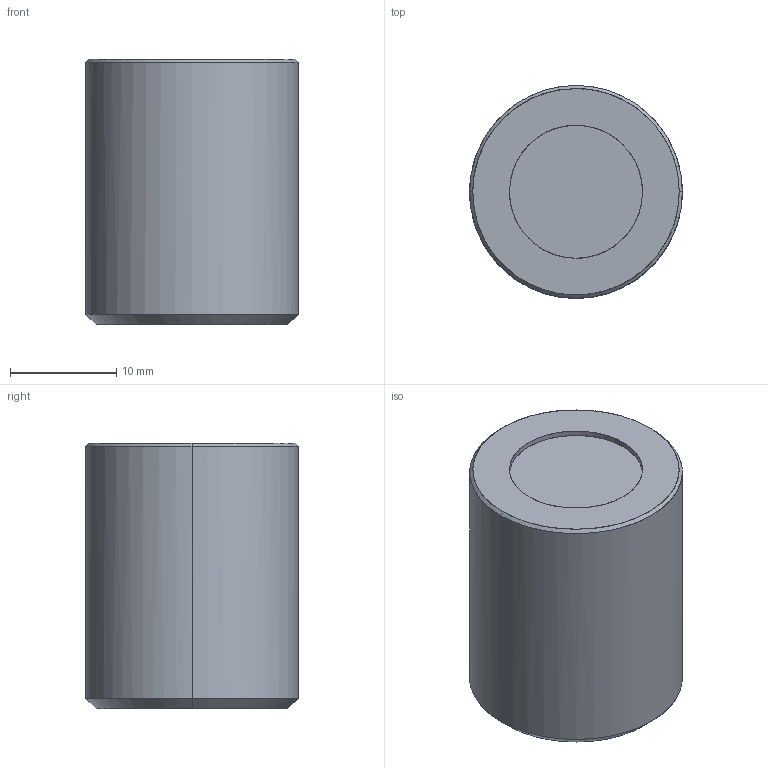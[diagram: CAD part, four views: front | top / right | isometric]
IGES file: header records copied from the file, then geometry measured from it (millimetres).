
Global section: file name: E:\UnigraphicsGraphicData\MISUMI_PRESS-PARTS\IGES\3d_mgn20_00563_r00.igs; native system: NX V5.0; preprocessor: UGS NX IGES V5.0; author: MISUMI; date: 20110105.161420; units: millimetre
Bounding box: 20 x 20 x 25 mm (x, y, z)
Surface area: 3041.1 mm2 (no closed solid volume)
Topology: 0 solids, 0 shells, 22 faces, 144 edges, 144 vertices
Faces by surface type: bspline 22
